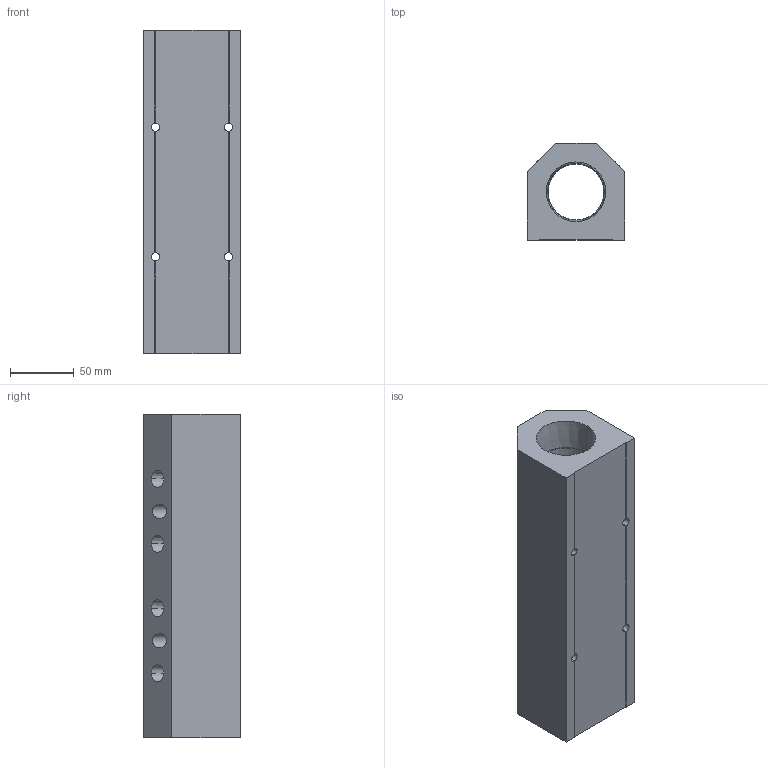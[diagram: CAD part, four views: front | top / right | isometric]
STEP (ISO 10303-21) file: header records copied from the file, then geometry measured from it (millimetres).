
FILE_DESCRIPTION (( 'STEP AP214' ), '1' );
FILE_NAME ('ALM4BD-N4N24-254R.step', '2022-02-07T07:39:42', ( '' ), ( '' ), 'SwSTEP 2.0', 'SolidWorks 2020', '' );
FILE_SCHEMA (( 'AUTOMOTIVE_DESIGN' ));
Length unit declared in the file: millimetre
Products named in the file (1): ALM4BD-N4N24-254R
Bounding box: 76.2 x 76.2 x 254 mm (x, y, z)
Volume: 922118.1 mm3; surface area: 122336.9 mm2
Topology: 1 solids, 1 shells, 324 faces, 856 edges, 568 vertices
Faces by surface type: plane 241, bspline 45, cone 20, cylinder 18
Entity records: 16758 total; most frequent: CARTESIAN_POINT 5954, ORIENTED_EDGE 1712, DIRECTION 1346, EDGE_CURVE 856, LINE 682, VECTOR 682, VERTEX_POINT 568, EDGE_LOOP 384
